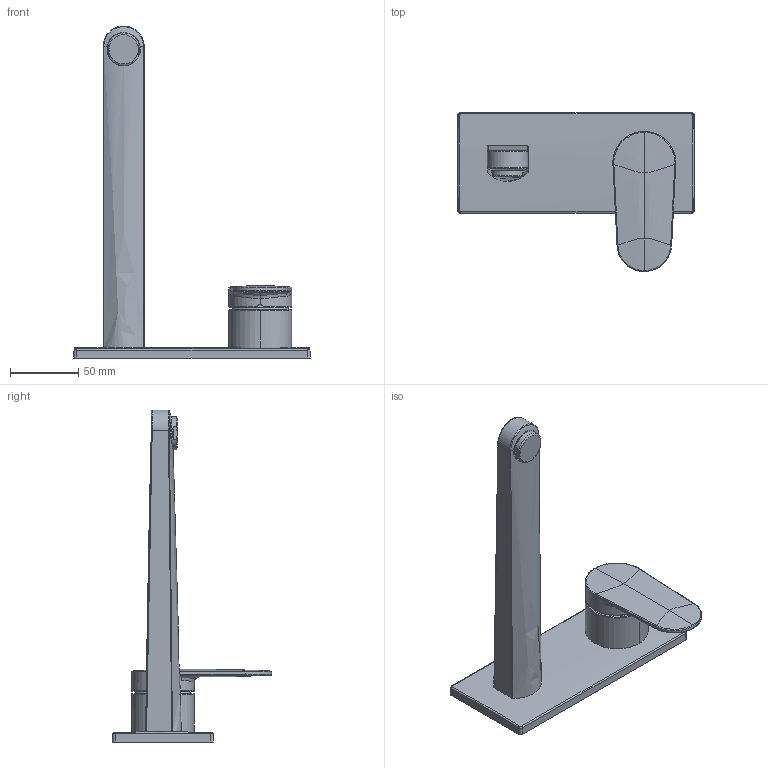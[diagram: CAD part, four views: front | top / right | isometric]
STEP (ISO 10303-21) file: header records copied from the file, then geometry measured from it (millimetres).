
FILE_DESCRIPTION((''),'2;1');
FILE_NAME('11_382_034_XXX','2018-02-14T',('ES997'),(''),'CREO PARAMETRIC BY PTC INC, 2016260','CREO PARAMETRIC BY PTC INC, 2016260','');
FILE_SCHEMA(('CONFIG_CONTROL_DESIGN'));
Length unit declared in the file: millimetre
Products named in the file (1): 11_382_034_XXX
Bounding box: 172.84 x 116.39 x 242.91 mm (x, y, z)
Volume: 312516.3 mm3; surface area: 62435.2 mm2
Topology: 1 solids, 1 shells, 97 faces, 219 edges, 131 vertices
Faces by surface type: bspline 47, plane 17, cylinder 16, extrusion 6, torus 6, sphere 2, cone 2, revolution 1
Entity records: 21482 total; most frequent: CARTESIAN_POINT 19663, ORIENTED_EDGE 438, DIRECTION 247, EDGE_CURVE 219, VERTEX_POINT 131, B_SPLINE_CURVE_WITH_KNOTS 131, EDGE_LOOP 104, AXIS2_PLACEMENT_3D 102
